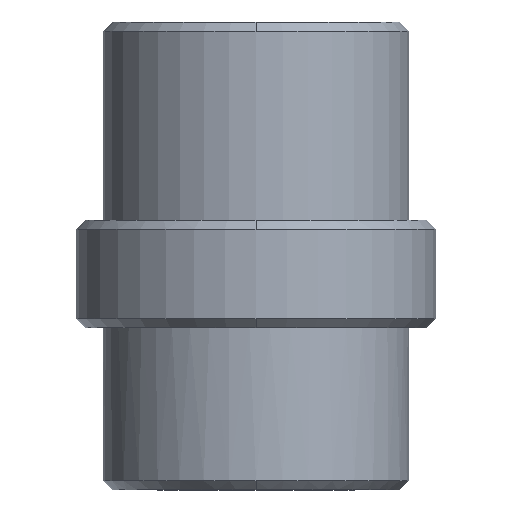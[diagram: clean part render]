
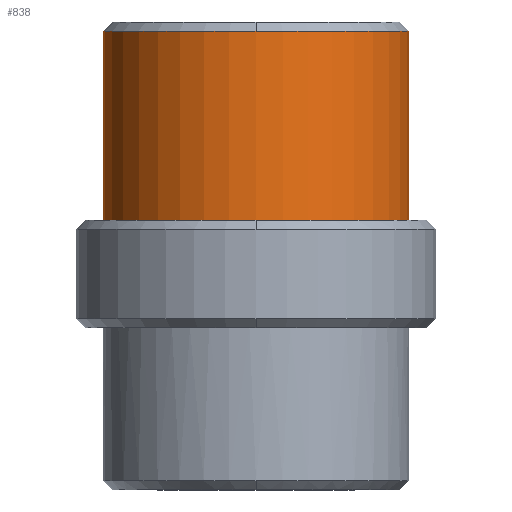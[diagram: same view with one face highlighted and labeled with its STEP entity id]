
A CAD part, front view. The second image highlights one B-rep face of the part: STEP entity #838.
In plain terms, the highlighted cylindrical face has radius 8.5 mm (diameter 17 mm), a partial arc.
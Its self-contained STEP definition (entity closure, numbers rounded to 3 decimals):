
#591=CARTESIAN_POINT('Vertex',(0.,-8.5,16.5)) ;
#607=CARTESIAN_POINT('Vertex',(-8.5,0.,16.5)) ;
#610=CARTESIAN_POINT('Axis2P3D Location',(0.,0.,16.5)) ;
#627=CARTESIAN_POINT('Axis2P3D Location',(0.,0.,16.5)) ;
#631=CARTESIAN_POINT('Vertex',(8.5,0.,16.5)) ;
#807=CARTESIAN_POINT('Axis2P3D Location',(0.,0.,-10.3)) ;
#812=CARTESIAN_POINT('Line Origine',(-8.5,0.,-10.3)) ;
#816=CARTESIAN_POINT('Vertex',(-8.5,0.,6.)) ;
#819=CARTESIAN_POINT('Axis2P3D Location',(0.,0.,6.)) ;
#823=CARTESIAN_POINT('Vertex',(8.5,0.,6.)) ;
#826=CARTESIAN_POINT('Line Origine',(8.5,0.,-10.3)) ;
#611=DIRECTION('Axis2P3D Direction',(0.,0.,-1.)) ;
#628=DIRECTION('Axis2P3D Direction',(0.,0.,-1.)) ;
#808=DIRECTION('Axis2P3D Direction',(0.,0.,1.)) ;
#809=DIRECTION('Axis2P3D XDirection',(-1.,0.,0.)) ;
#813=DIRECTION('Vector Direction',(0.,0.,1.)) ;
#820=DIRECTION('Axis2P3D Direction',(0.,0.,1.)) ;
#827=DIRECTION('Vector Direction',(0.,0.,1.)) ;
#612=AXIS2_PLACEMENT_3D('Circle Axis2P3D',#610,#611,$) ;
#629=AXIS2_PLACEMENT_3D('Circle Axis2P3D',#627,#628,$) ;
#810=AXIS2_PLACEMENT_3D('Cylinder Axis2P3D',#807,#808,#809) ;
#821=AXIS2_PLACEMENT_3D('Circle Axis2P3D',#819,#820,$) ;
#832=ORIENTED_EDGE('',*,*,#818,.T.) ;
#833=ORIENTED_EDGE('',*,*,#825,.F.) ;
#834=ORIENTED_EDGE('',*,*,#830,.F.) ;
#835=ORIENTED_EDGE('',*,*,#633,.T.) ;
#836=ORIENTED_EDGE('',*,*,#614,.T.) ;
#814=VECTOR('Line Direction',#813,1.) ;
#828=VECTOR('Line Direction',#827,1.) ;
#838=ADVANCED_FACE('MANIFOLD_SOLID_BREP #1958',(#837),#811,.T.) ;
#613=CIRCLE('generated circle',#612,8.5) ;
#630=CIRCLE('generated circle',#629,8.5) ;
#822=CIRCLE('generated circle',#821,8.5) ;
#811=CYLINDRICAL_SURFACE('generated cylinder',#810,8.5) ;
#614=EDGE_CURVE('',#592,#608,#613,.T.) ;
#633=EDGE_CURVE('',#632,#592,#630,.T.) ;
#818=EDGE_CURVE('',#608,#817,#815,.F.) ;
#825=EDGE_CURVE('',#824,#817,#822,.F.) ;
#830=EDGE_CURVE('',#632,#824,#829,.F.) ;
#831=EDGE_LOOP('',(#832,#833,#834,#835,#836)) ;
#837=FACE_OUTER_BOUND('',#831,.T.) ;
#815=LINE('Line',#812,#814) ;
#829=LINE('Line',#826,#828) ;
#592=VERTEX_POINT('',#591) ;
#608=VERTEX_POINT('',#607) ;
#632=VERTEX_POINT('',#631) ;
#817=VERTEX_POINT('',#816) ;
#824=VERTEX_POINT('',#823) ;
